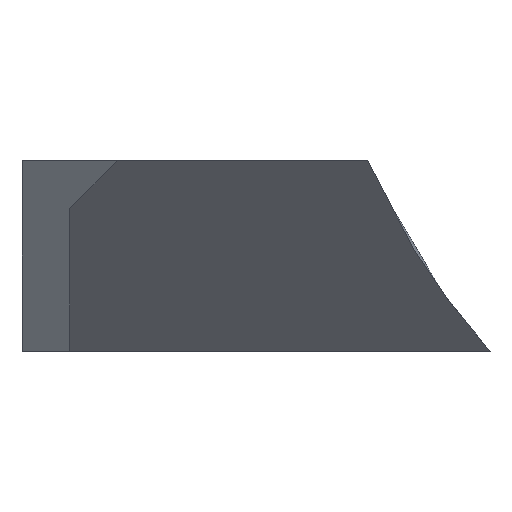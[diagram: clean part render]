
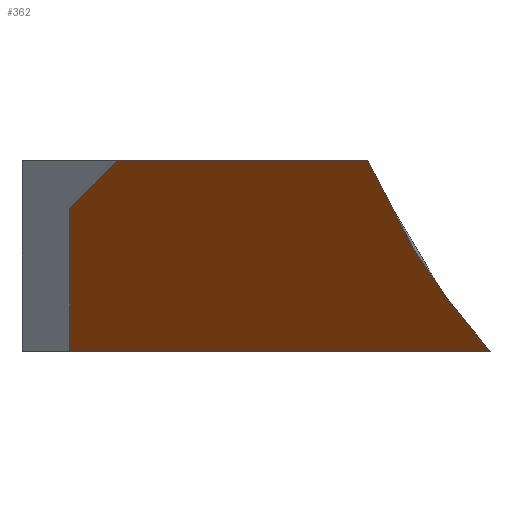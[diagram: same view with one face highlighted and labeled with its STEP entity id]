
A CAD part, left-side view. The second image highlights one B-rep face of the part: STEP entity #362.
In plain terms, the highlighted planar face has unit normal (-0.707, 0, -0.707).
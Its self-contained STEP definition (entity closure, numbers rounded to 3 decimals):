
#32=ELLIPSE('',#403,21.213,15.);
#53=FACE_OUTER_BOUND('',#72,.T.);
#72=EDGE_LOOP('',(#264,#265,#266,#267,#268));
#92=LINE('',#545,#124);
#97=LINE('',#555,#129);
#104=LINE('',#583,#136);
#105=LINE('',#585,#137);
#124=VECTOR('',#435,10.);
#129=VECTOR('',#442,10.);
#136=VECTOR('',#465,10.);
#137=VECTOR('',#466,10.);
#156=VERTEX_POINT('',#543);
#157=VERTEX_POINT('',#544);
#161=VERTEX_POINT('',#554);
#174=VERTEX_POINT('',#582);
#175=VERTEX_POINT('',#584);
#190=EDGE_CURVE('',#156,#157,#92,.T.);
#195=EDGE_CURVE('',#161,#157,#97,.T.);
#209=EDGE_CURVE('',#174,#156,#104,.T.);
#210=EDGE_CURVE('',#175,#174,#105,.T.);
#211=EDGE_CURVE('',#161,#175,#32,.T.);
#264=ORIENTED_EDGE('',*,*,#190,.F.);
#265=ORIENTED_EDGE('',*,*,#209,.F.);
#266=ORIENTED_EDGE('',*,*,#210,.F.);
#267=ORIENTED_EDGE('',*,*,#211,.F.);
#268=ORIENTED_EDGE('',*,*,#195,.T.);
#354=PLANE('',#402);
#362=ADVANCED_FACE('',(#53),#354,.F.);
#402=AXIS2_PLACEMENT_3D('',#581,#463,#464);
#403=AXIS2_PLACEMENT_3D('',#586,#467,#468);
#435=DIRECTION('',(-0.577,-0.577,0.577));
#442=DIRECTION('',(0.,1.,0.));
#463=DIRECTION('center_axis',(0.707,0.,0.707));
#464=DIRECTION('ref_axis',(0.707,0.,-0.707));
#465=DIRECTION('',(-0.707,0.,0.707));
#466=DIRECTION('',(0.,1.,0.));
#467=DIRECTION('center_axis',(-0.707,0.,-0.707));
#468=DIRECTION('ref_axis',(-0.707,0.,0.707));
#543=CARTESIAN_POINT('',(51.002,19.992,4.026));
#544=CARTESIAN_POINT('',(50.002,18.992,5.026));
#545=CARTESIAN_POINT('',(54.843,23.834,0.184));
#554=CARTESIAN_POINT('',(50.002,13.74,5.026));
#555=CARTESIAN_POINT('',(50.002,12.242,5.026));
#581=CARTESIAN_POINT('Origin',(52.502,-5.508,2.526));
#582=CARTESIAN_POINT('',(54.002,19.992,1.026));
#583=CARTESIAN_POINT('',(60.627,19.992,-5.599));
#584=CARTESIAN_POINT('',(54.002,11.173,1.026));
#585=CARTESIAN_POINT('',(54.002,-5.508,1.026));
#586=CARTESIAN_POINT('Origin',(44.002,-0.008,11.026));
